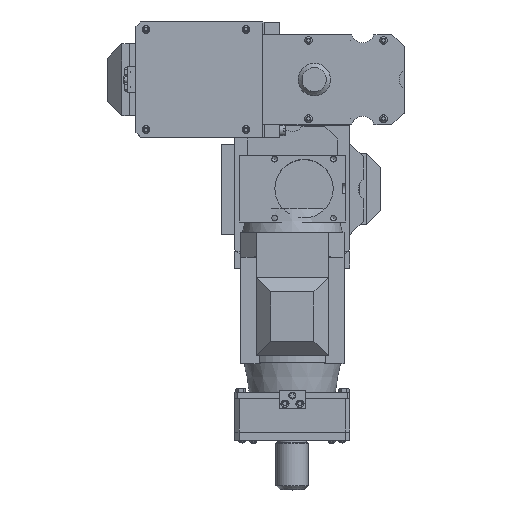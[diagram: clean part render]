
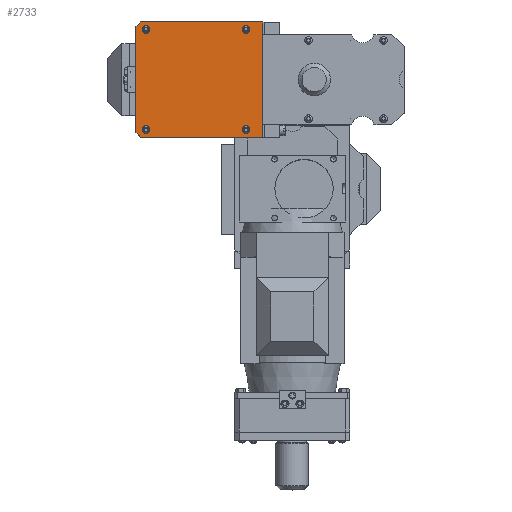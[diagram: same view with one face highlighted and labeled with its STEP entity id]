
A CAD part, top view. The second image highlights one B-rep face of the part: STEP entity #2733.
In plain terms, the highlighted planar face has unit normal (0, 0, 1).
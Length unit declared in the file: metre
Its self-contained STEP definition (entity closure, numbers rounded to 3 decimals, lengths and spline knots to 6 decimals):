
#2733 = ADVANCED_FACE( '', ( #4135, #4136, #4137, #4138, #4139 ), #4140, .T. );
#4135 = FACE_BOUND( '', #6359, .T. );
#4136 = FACE_BOUND( '', #6360, .T. );
#4137 = FACE_BOUND( '', #6361, .T. );
#4138 = FACE_BOUND( '', #6362, .T. );
#4139 = FACE_OUTER_BOUND( '', #6363, .T. );
#4140 = PLANE( '', #6364 );
#6359 = EDGE_LOOP( '', ( #10220 ) );
#6360 = EDGE_LOOP( '', ( #10221 ) );
#6361 = EDGE_LOOP( '', ( #10222 ) );
#6362 = EDGE_LOOP( '', ( #10223 ) );
#6363 = EDGE_LOOP( '', ( #10224, #10225, #10226, #10227, #10228, #10229 ) );
#6364 = AXIS2_PLACEMENT_3D( '', #10230, #10231, #10232 );
#10220 = ORIENTED_EDGE( '', *, *, #12767, .T. );
#10221 = ORIENTED_EDGE( '', *, *, #12774, .T. );
#10222 = ORIENTED_EDGE( '', *, *, #12773, .T. );
#10223 = ORIENTED_EDGE( '', *, *, #12775, .T. );
#10224 = ORIENTED_EDGE( '', *, *, #12776, .T. );
#10225 = ORIENTED_EDGE( '', *, *, #12777, .F. );
#10226 = ORIENTED_EDGE( '', *, *, #12778, .F. );
#10227 = ORIENTED_EDGE( '', *, *, #12771, .F. );
#10228 = ORIENTED_EDGE( '', *, *, #12779, .F. );
#10229 = ORIENTED_EDGE( '', *, *, #12780, .F. );
#10230 = CARTESIAN_POINT( '', ( 0., -0.001, 0.01 ) );
#10231 = DIRECTION( '', ( 0., 0., 1. ) );
#10232 = DIRECTION( '', ( 1., 0., 0. ) );
#12767 = EDGE_CURVE( '', #14759, #14759, #14760, .T. );
#12771 = EDGE_CURVE( '', #14766, #14762, #14768, .T. );
#12773 = EDGE_CURVE( '', #14771, #14771, #14772, .T. );
#12774 = EDGE_CURVE( '', #14773, #14773, #14774, .T. );
#12775 = EDGE_CURVE( '', #14775, #14775, #14776, .T. );
#12776 = EDGE_CURVE( '', #14777, #14778, #14779, .T. );
#12777 = EDGE_CURVE( '', #14780, #14778, #14781, .T. );
#12778 = EDGE_CURVE( '', #14762, #14780, #14782, .T. );
#12779 = EDGE_CURVE( '', #14783, #14766, #14784, .T. );
#12780 = EDGE_CURVE( '', #14777, #14783, #14785, .T. );
#14759 = VERTEX_POINT( '', #18789 );
#14760 = CIRCLE( '', #18790, 0.00275 );
#14762 = VERTEX_POINT( '', #18792 );
#14766 = VERTEX_POINT( '', #18798 );
#14768 = LINE( '', #18801, #18802 );
#14771 = VERTEX_POINT( '', #18805 );
#14772 = CIRCLE( '', #18806, 0.00275 );
#14773 = VERTEX_POINT( '', #18807 );
#14774 = CIRCLE( '', #18808, 0.00275 );
#14775 = VERTEX_POINT( '', #18809 );
#14776 = CIRCLE( '', #18810, 0.00275 );
#14777 = VERTEX_POINT( '', #18811 );
#14778 = VERTEX_POINT( '', #18812 );
#14779 = LINE( '', #18813, #18814 );
#14780 = VERTEX_POINT( '', #18815 );
#14781 = LINE( '', #18816, #18817 );
#14782 = LINE( '', #18818, #18819 );
#14783 = VERTEX_POINT( '', #18820 );
#14784 = LINE( '', #18821, #18822 );
#14785 = LINE( '', #18823, #18824 );
#18789 = CARTESIAN_POINT( '', ( 0.06275, 0.054, 0.01 ) );
#18790 = AXIS2_PLACEMENT_3D( '', #22138, #22139, #22140 );
#18792 = CARTESIAN_POINT( '', ( -0.064, -0.078, 0.01 ) );
#18798 = CARTESIAN_POINT( '', ( 0.064, -0.078, 0.01 ) );
#18801 = CARTESIAN_POINT( '', ( -0.069, -0.078, 0.01 ) );
#18802 = VECTOR( '', #22144, 1. );
#18805 = CARTESIAN_POINT( '', ( -0.05725, 0.054, 0.01 ) );
#18806 = AXIS2_PLACEMENT_3D( '', #22148, #22149, #22150 );
#18807 = CARTESIAN_POINT( '', ( 0.06275, -0.066, 0.01 ) );
#18808 = AXIS2_PLACEMENT_3D( '', #22151, #22152, #22153 );
#18809 = CARTESIAN_POINT( '', ( -0.05725, -0.066, 0.01 ) );
#18810 = AXIS2_PLACEMENT_3D( '', #22154, #22155, #22156 );
#18811 = CARTESIAN_POINT( '', ( 0.069, 0.074, 0.01 ) );
#18812 = CARTESIAN_POINT( '', ( -0.069, 0.074, 0.01 ) );
#18813 = CARTESIAN_POINT( '', ( -0.0345, 0.074, 0.01 ) );
#18814 = VECTOR( '', #22157, 1. );
#18815 = CARTESIAN_POINT( '', ( -0.069, -0.073, 0.01 ) );
#18816 = CARTESIAN_POINT( '', ( -0.069, 0.076, 0.01 ) );
#18817 = VECTOR( '', #22158, 1. );
#18818 = CARTESIAN_POINT( '', ( -0.0685, -0.0735, 0.01 ) );
#18819 = VECTOR( '', #22159, 1. );
#18820 = CARTESIAN_POINT( '', ( 0.069, -0.073, 0.01 ) );
#18821 = CARTESIAN_POINT( '', ( 0.0685, -0.0735, 0.01 ) );
#18822 = VECTOR( '', #22160, 1. );
#18823 = CARTESIAN_POINT( '', ( 0.069, -0.078, 0.01 ) );
#18824 = VECTOR( '', #22161, 1. );
#22138 = CARTESIAN_POINT( '', ( 0.06, 0.054, 0.01 ) );
#22139 = DIRECTION( '', ( 0., 0., -1. ) );
#22140 = DIRECTION( '', ( 1., 0., 0. ) );
#22144 = DIRECTION( '', ( -1., 0., 0. ) );
#22148 = CARTESIAN_POINT( '', ( -0.06, 0.054, 0.01 ) );
#22149 = DIRECTION( '', ( 0., 0., -1. ) );
#22150 = DIRECTION( '', ( 1., 0., 0. ) );
#22151 = CARTESIAN_POINT( '', ( 0.06, -0.066, 0.01 ) );
#22152 = DIRECTION( '', ( 0., 0., -1. ) );
#22153 = DIRECTION( '', ( 1., 0., 0. ) );
#22154 = CARTESIAN_POINT( '', ( -0.06, -0.066, 0.01 ) );
#22155 = DIRECTION( '', ( 0., 0., -1. ) );
#22156 = DIRECTION( '', ( 1., 0., 0. ) );
#22157 = DIRECTION( '', ( -1., 0., 0. ) );
#22158 = DIRECTION( '', ( 0., 1., 0. ) );
#22159 = DIRECTION( '', ( -0.707, 0.707, 0. ) );
#22160 = DIRECTION( '', ( -0.707, -0.707, 0. ) );
#22161 = DIRECTION( '', ( 0., -1., 0. ) );
